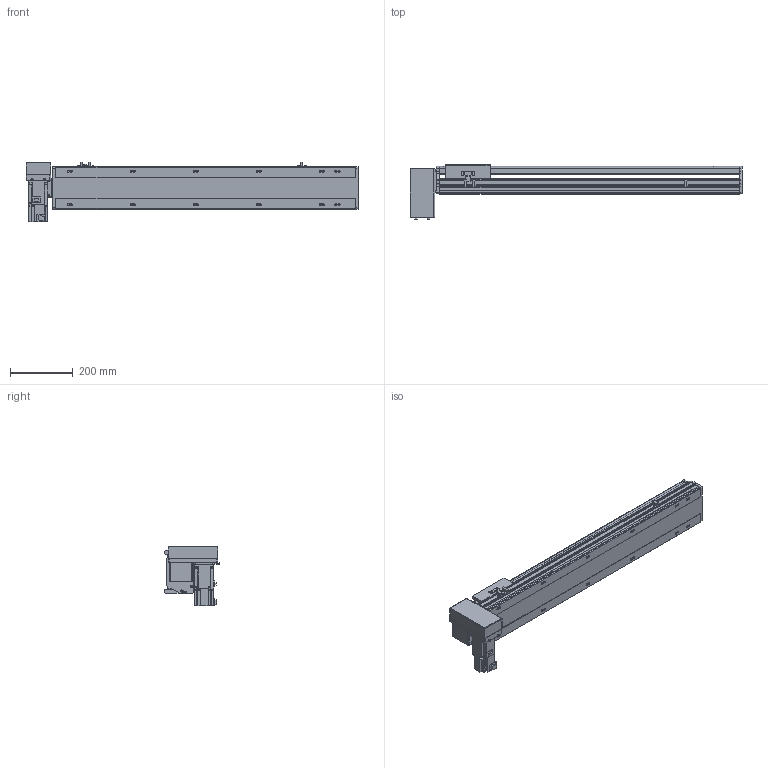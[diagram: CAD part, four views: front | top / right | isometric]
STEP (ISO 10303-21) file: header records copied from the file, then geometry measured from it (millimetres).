
FILE_DESCRIPTION( ( 'STEP AP214' ), '1' );
FILE_NAME( 'x:/temp/worker_6/temp/exporttempdir_5396_168_H2BRR/format_0/PBS140S-P40-S700-RD-T40-C1-N(0).stp', '2022-06-09T00:42:35', ( 'License CC BY-ND 4.0' ), ( 'CADENAS' ), ' ', 'PARTsolutions', ' ' );
FILE_SCHEMA( ( 'AUTOMOTIVE_DESIGN { 1 0 10303 214 1 1 1 1 }' ) );
Length unit declared in the file: millimetre
Products named in the file (7): PBS140S-P40-S700-RD-T40-C1-N(0); _PBS140S-S700()_body; _PBS140ST-RD_motors; _T40-p1; _PBS140S_sliser; _PBS140S_plant; _PBS140S_sensor
Assembly tree (8 placements, depth 2):
  PBS140S-P40-S700-RD-T40-C1-N(0)
    _PBS140S-S700()_body
    _PBS140ST-RD_motors
    _T40-p1
    _PBS140S_sliser
    _PBS140S_plant
    _PBS140S_sensor  x3
Bounding box: 1054 x 172.5 x 189.7 mm (x, y, z)
Volume: 5671798.2 mm3; surface area: 996180.9 mm2
Topology: 8 solids, 8 shells, 1067 faces, 2831 edges, 1853 vertices
Faces by surface type: plane 690, cylinder 329, cone 38, sphere 8, torus 2
Full cylindrical faces by diameter (mm): 3.242 x4, 4 x2, 4.134 x4, 4.4 x8, 4.5 x2, 4.8 x4, 4.917 x20, 5.5 x7, 6 x2, 7 x14, 7.5 x8, 8 x12, 8.5 x4, 10.5 x12, 14 x1, 30 x2, 50 x2
Entity records: 39052 total; most frequent: CARTESIAN_POINT 6070, DIRECTION 5208, ORIENTED_EDGE 4942, EDGE_CURVE 2471, AXIS2_PLACEMENT_3D 1799, VERTEX_POINT 1705, LINE 1610, VECTOR 1610
